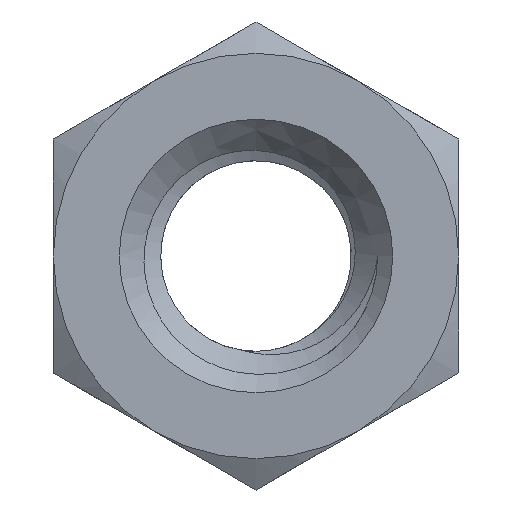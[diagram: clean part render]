
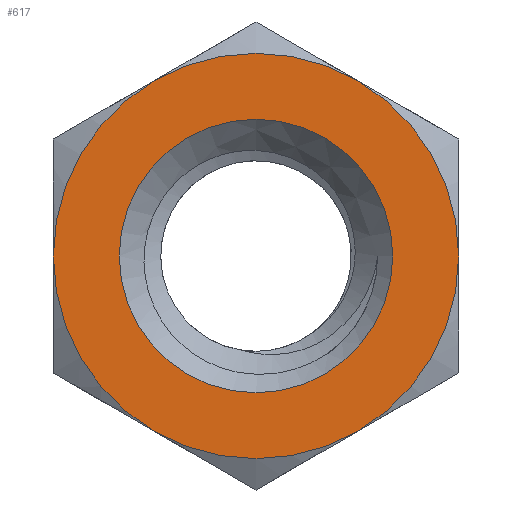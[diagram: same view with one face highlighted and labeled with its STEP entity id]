
A CAD part, front view. The second image highlights one B-rep face of the part: STEP entity #617.
In plain terms, the highlighted planar face has unit normal (0, -1, 0).
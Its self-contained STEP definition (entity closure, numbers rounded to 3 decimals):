
#84=FACE_BOUND('',#165,.T.);
#94=PLANE('',#692);
#123=FACE_OUTER_BOUND('',#164,.T.);
#164=EDGE_LOOP('',(#539,#540,#541,#542,#543,#544));
#165=EDGE_LOOP('',(#545));
#225=CIRCLE('',#668,3.375);
#227=CIRCLE('',#671,5.);
#237=CIRCLE('',#693,5.);
#238=CIRCLE('',#694,5.);
#239=CIRCLE('',#695,5.);
#240=CIRCLE('',#696,5.);
#241=CIRCLE('',#697,5.);
#272=VERTEX_POINT('',#1256);
#274=VERTEX_POINT('',#1302);
#275=VERTEX_POINT('',#1303);
#290=VERTEX_POINT('',#1874);
#293=VERTEX_POINT('',#1891);
#295=VERTEX_POINT('',#1904);
#298=VERTEX_POINT('',#1918);
#339=EDGE_CURVE('',#272,#272,#225,.T.);
#343=EDGE_CURVE('',#274,#275,#227,.T.);
#388=EDGE_CURVE('',#275,#298,#237,.T.);
#389=EDGE_CURVE('',#298,#295,#238,.T.);
#390=EDGE_CURVE('',#295,#293,#239,.T.);
#391=EDGE_CURVE('',#293,#290,#240,.T.);
#392=EDGE_CURVE('',#290,#274,#241,.T.);
#539=ORIENTED_EDGE('',*,*,#343,.T.);
#540=ORIENTED_EDGE('',*,*,#388,.T.);
#541=ORIENTED_EDGE('',*,*,#389,.T.);
#542=ORIENTED_EDGE('',*,*,#390,.T.);
#543=ORIENTED_EDGE('',*,*,#391,.T.);
#544=ORIENTED_EDGE('',*,*,#392,.T.);
#545=ORIENTED_EDGE('',*,*,#339,.T.);
#617=ADVANCED_FACE('',(#123,#84),#94,.T.);
#668=AXIS2_PLACEMENT_3D('',#1258,#771,#772);
#671=AXIS2_PLACEMENT_3D('',#1304,#777,#778);
#692=AXIS2_PLACEMENT_3D('',#1943,#825,#826);
#693=AXIS2_PLACEMENT_3D('',#1944,#827,#828);
#694=AXIS2_PLACEMENT_3D('',#1945,#829,#830);
#695=AXIS2_PLACEMENT_3D('',#1946,#831,#832);
#696=AXIS2_PLACEMENT_3D('',#1947,#833,#834);
#697=AXIS2_PLACEMENT_3D('',#1948,#835,#836);
#771=DIRECTION('center_axis',(0.,1.,0.));
#772=DIRECTION('ref_axis',(0.,0.,-1.));
#777=DIRECTION('center_axis',(0.,-1.,0.));
#778=DIRECTION('ref_axis',(0.,0.,-1.));
#825=DIRECTION('center_axis',(0.,-1.,0.));
#826=DIRECTION('ref_axis',(0.,0.,-1.));
#827=DIRECTION('center_axis',(0.,-1.,0.));
#828=DIRECTION('ref_axis',(0.,0.,-1.));
#829=DIRECTION('center_axis',(0.,-1.,0.));
#830=DIRECTION('ref_axis',(0.,0.,-1.));
#831=DIRECTION('center_axis',(0.,-1.,0.));
#832=DIRECTION('ref_axis',(0.,0.,-1.));
#833=DIRECTION('center_axis',(0.,-1.,0.));
#834=DIRECTION('ref_axis',(0.,0.,-1.));
#835=DIRECTION('center_axis',(0.,-1.,0.));
#836=DIRECTION('ref_axis',(0.,0.,-1.));
#1256=CARTESIAN_POINT('',(0.,-3.,3.375));
#1258=CARTESIAN_POINT('Origin',(0.,-3.,0.));
#1302=CARTESIAN_POINT('',(-2.5,-3.,-4.33));
#1303=CARTESIAN_POINT('',(2.5,-3.,-4.33));
#1304=CARTESIAN_POINT('Origin',(0.,-3.,0.));
#1874=CARTESIAN_POINT('',(-5.,-3.,0.));
#1891=CARTESIAN_POINT('',(-2.5,-3.,4.33));
#1904=CARTESIAN_POINT('',(2.5,-3.,4.33));
#1918=CARTESIAN_POINT('',(5.,-3.,0.));
#1943=CARTESIAN_POINT('Origin',(0.,-3.,0.));
#1944=CARTESIAN_POINT('Origin',(0.,-3.,0.));
#1945=CARTESIAN_POINT('Origin',(0.,-3.,0.));
#1946=CARTESIAN_POINT('Origin',(0.,-3.,0.));
#1947=CARTESIAN_POINT('Origin',(0.,-3.,0.));
#1948=CARTESIAN_POINT('Origin',(0.,-3.,0.));
